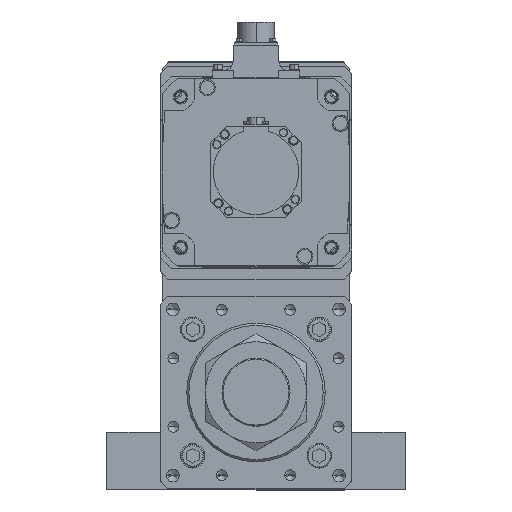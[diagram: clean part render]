
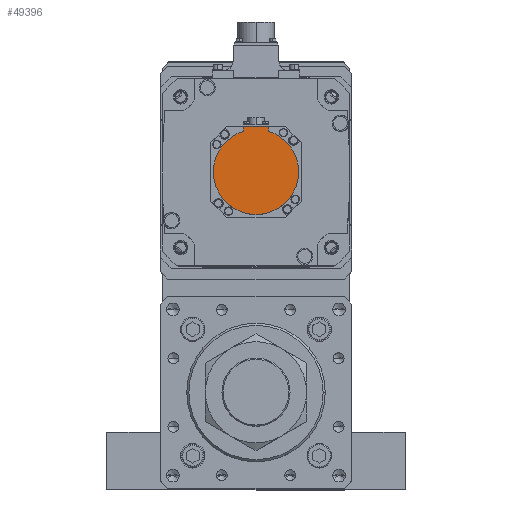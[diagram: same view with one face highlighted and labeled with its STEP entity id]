
A CAD part, top view. The second image highlights one B-rep face of the part: STEP entity #49396.
In plain terms, the highlighted planar face has unit normal (0, 0, 1) as drawn and (0, 0, -1) by its records, which use the part's own axes.
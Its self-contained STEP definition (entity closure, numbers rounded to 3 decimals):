
#955 = DIRECTION ( 'NONE',  ( 0., 0., 1. ) ) ;
#1387 = EDGE_CURVE ( 'NONE', #30190, #11274, #30440, .T. ) ;
#1508 = CIRCLE ( 'NONE', #30146, 40. ) ;
#3481 = DIRECTION ( 'NONE',  ( -1., 0., 0. ) ) ;
#4467 = AXIS2_PLACEMENT_3D ( 'NONE', #53797, #32626, #37109 ) ;
#5197 = CARTESIAN_POINT ( 'NONE',  ( -12., -40.329, -178.5 ) ) ;
#7347 = LINE ( 'NONE', #41155, #41015 ) ;
#8071 = CARTESIAN_POINT ( 'NONE',  ( 12., -42.5, -178.5 ) ) ;
#8552 = LINE ( 'NONE', #5197, #15059 ) ;
#9749 = EDGE_CURVE ( 'NONE', #30190, #19081, #7347, .T. ) ;
#11274 = VERTEX_POINT ( 'NONE', #50762 ) ;
#12445 = CARTESIAN_POINT ( 'NONE',  ( 0., -1.249, -178.5 ) ) ;
#13233 = EDGE_CURVE ( 'NONE', #19081, #38935, #41871, .T. ) ;
#15059 = VECTOR ( 'NONE', #18054, 1000. ) ;
#15256 = DIRECTION ( 'NONE',  ( 1., 0., 0. ) ) ;
#15391 = CARTESIAN_POINT ( 'NONE',  ( -40., 0., -178.5 ) ) ;
#15755 = ORIENTED_EDGE ( 'NONE', *, *, #38350, .F. ) ;
#18054 = DIRECTION ( 'NONE',  ( 0., 1., 0. ) ) ;
#19081 = VERTEX_POINT ( 'NONE', #41457 ) ;
#19382 = VECTOR ( 'NONE', #3481, 1000. ) ;
#19931 = ORIENTED_EDGE ( 'NONE', *, *, #13233, .F. ) ;
#21397 = EDGE_LOOP ( 'NONE', ( #44918, #15755, #21879, #19931, #38618, #37180 ) ) ;
#21567 = CARTESIAN_POINT ( 'NONE',  ( -12., -38.158, -178.5 ) ) ;
#21879 = ORIENTED_EDGE ( 'NONE', *, *, #23088, .F. ) ;
#23088 = EDGE_CURVE ( 'NONE', #38935, #27711, #1508, .T. ) ;
#23591 = CARTESIAN_POINT ( 'NONE',  ( 0., -42.5, -178.5 ) ) ;
#24223 = DIRECTION ( 'NONE',  ( 0., 0., 1. ) ) ;
#24423 = CARTESIAN_POINT ( 'NONE',  ( 40., 0., -178.5 ) ) ;
#26148 = CARTESIAN_POINT ( 'NONE',  ( 0., 0., -178.5 ) ) ;
#27711 = VERTEX_POINT ( 'NONE', #15391 ) ;
#27990 = EDGE_CURVE ( 'NONE', #11274, #46236, #8552, .T. ) ;
#29087 = PLANE ( 'NONE',  #29649 ) ;
#29649 = AXIS2_PLACEMENT_3D ( 'NONE', #12445, #24223, #53191 ) ;
#29714 = FACE_OUTER_BOUND ( 'NONE', #21397, .T. ) ;
#30146 = AXIS2_PLACEMENT_3D ( 'NONE', #26148, #34456, #15256 ) ;
#30190 = VERTEX_POINT ( 'NONE', #8071 ) ;
#30440 = LINE ( 'NONE', #23591, #19382 ) ;
#31095 = CIRCLE ( 'NONE', #4467, 40. ) ;
#32626 = DIRECTION ( 'NONE',  ( 0., 0., 1. ) ) ;
#34456 = DIRECTION ( 'NONE',  ( 0., 0., 1. ) ) ;
#37109 = DIRECTION ( 'NONE',  ( 1., 0., 0. ) ) ;
#37180 = ORIENTED_EDGE ( 'NONE', *, *, #1387, .T. ) ;
#37518 = DIRECTION ( 'NONE',  ( 0., 1., 0. ) ) ;
#38350 = EDGE_CURVE ( 'NONE', #27711, #46236, #31095, .T. ) ;
#38618 = ORIENTED_EDGE ( 'NONE', *, *, #9749, .F. ) ;
#38935 = VERTEX_POINT ( 'NONE', #24423 ) ;
#41015 = VECTOR ( 'NONE', #37518, 1000. ) ;
#41155 = CARTESIAN_POINT ( 'NONE',  ( 12., -1.249, -178.5 ) ) ;
#41363 = AXIS2_PLACEMENT_3D ( 'NONE', #42661, #955, #50439 ) ;
#41457 = CARTESIAN_POINT ( 'NONE',  ( 12., -38.158, -178.5 ) ) ;
#41871 = CIRCLE ( 'NONE', #41363, 40. ) ;
#42661 = CARTESIAN_POINT ( 'NONE',  ( 0., 0., -178.5 ) ) ;
#44918 = ORIENTED_EDGE ( 'NONE', *, *, #27990, .T. ) ;
#46236 = VERTEX_POINT ( 'NONE', #21567 ) ;
#49396 = ADVANCED_FACE ( 'NONE', ( #29714 ), #29087, .F. ) ;
#50439 = DIRECTION ( 'NONE',  ( 1., 0., 0. ) ) ;
#50762 = CARTESIAN_POINT ( 'NONE',  ( -12., -42.5, -178.5 ) ) ;
#53191 = DIRECTION ( 'NONE',  ( 1., 0., 0. ) ) ;
#53797 = CARTESIAN_POINT ( 'NONE',  ( 0., 0., -178.5 ) ) ;
